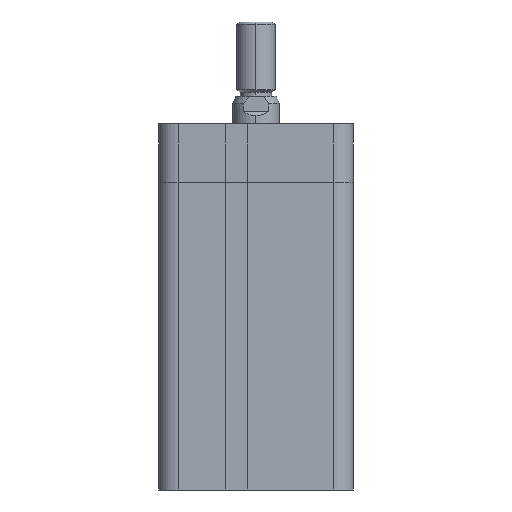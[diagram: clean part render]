
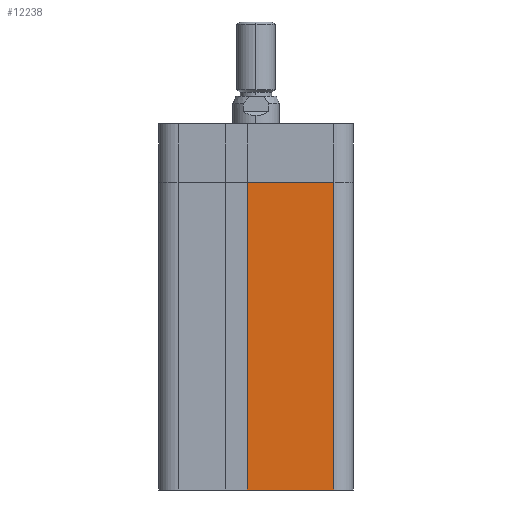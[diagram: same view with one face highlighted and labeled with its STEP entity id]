
A CAD part, front view. The second image highlights one B-rep face of the part: STEP entity #12238.
In plain terms, the highlighted planar face has unit normal (0, -1, 0).
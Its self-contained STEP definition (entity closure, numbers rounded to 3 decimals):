
#1100 = DIRECTION ( 'NONE',  ( -1., 0., 0. ) ) ;
#1669 = CARTESIAN_POINT ( 'NONE',  ( 22.799, -49.976, -20. ) ) ;
#1755 = ORIENTED_EDGE ( 'NONE', *, *, #11450, .F. ) ;
#1856 = EDGE_CURVE ( 'NONE', #8318, #4505, #3774, .T. ) ;
#2433 = DIRECTION ( 'NONE',  ( 0., 0., 1. ) ) ;
#2549 = CARTESIAN_POINT ( 'NONE',  ( 45., -49.976, -20. ) ) ;
#2562 = DIRECTION ( 'NONE',  ( 0., 1., 0. ) ) ;
#2785 = VECTOR ( 'NONE', #2906, 1000. ) ;
#2789 = AXIS2_PLACEMENT_3D ( 'NONE', #6550, #2562, #2433 ) ;
#2906 = DIRECTION ( 'NONE',  ( 0., 0., 1. ) ) ;
#3085 = VECTOR ( 'NONE', #12066, 1000. ) ;
#3111 = VECTOR ( 'NONE', #6610, 1000. ) ;
#3774 = LINE ( 'NONE', #9274, #12228 ) ;
#4505 = VERTEX_POINT ( 'NONE', #9948 ) ;
#4549 = PLANE ( 'NONE',  #2789 ) ;
#4734 = CARTESIAN_POINT ( 'NONE',  ( 22.799, -49.976, -20. ) ) ;
#6509 = LINE ( 'NONE', #4734, #3085 ) ;
#6550 = CARTESIAN_POINT ( 'NONE',  ( 5., -49.976, -20. ) ) ;
#6610 = DIRECTION ( 'NONE',  ( -1., 0., 0. ) ) ;
#6688 = EDGE_CURVE ( 'NONE', #4505, #11537, #6509, .T. ) ;
#7508 = EDGE_LOOP ( 'NONE', ( #10537, #12613, #1755, #11887 ) ) ;
#8318 = VERTEX_POINT ( 'NONE', #9911 ) ;
#9132 = LINE ( 'NONE', #9664, #3111 ) ;
#9274 = CARTESIAN_POINT ( 'NONE',  ( 5., -49.976, 59. ) ) ;
#9664 = CARTESIAN_POINT ( 'NONE',  ( 5., -49.976, -20. ) ) ;
#9911 = CARTESIAN_POINT ( 'NONE',  ( 45., -49.976, 59. ) ) ;
#9948 = CARTESIAN_POINT ( 'NONE',  ( 22.799, -49.976, 59. ) ) ;
#10199 = CARTESIAN_POINT ( 'NONE',  ( 45., -49.976, -20. ) ) ;
#10537 = ORIENTED_EDGE ( 'NONE', *, *, #1856, .T. ) ;
#10628 = LINE ( 'NONE', #10199, #2785 ) ;
#11450 = EDGE_CURVE ( 'NONE', #12968, #11537, #9132, .T. ) ;
#11537 = VERTEX_POINT ( 'NONE', #1669 ) ;
#11691 = EDGE_CURVE ( 'NONE', #12968, #8318, #10628, .T. ) ;
#11887 = ORIENTED_EDGE ( 'NONE', *, *, #11691, .T. ) ;
#12066 = DIRECTION ( 'NONE',  ( 0., 0., -1. ) ) ;
#12101 = FACE_OUTER_BOUND ( 'NONE', #7508, .T. ) ;
#12228 = VECTOR ( 'NONE', #1100, 1000. ) ;
#12238 = ADVANCED_FACE ( 'NONE', ( #12101 ), #4549, .F. ) ;
#12613 = ORIENTED_EDGE ( 'NONE', *, *, #6688, .T. ) ;
#12968 = VERTEX_POINT ( 'NONE', #2549 ) ;
